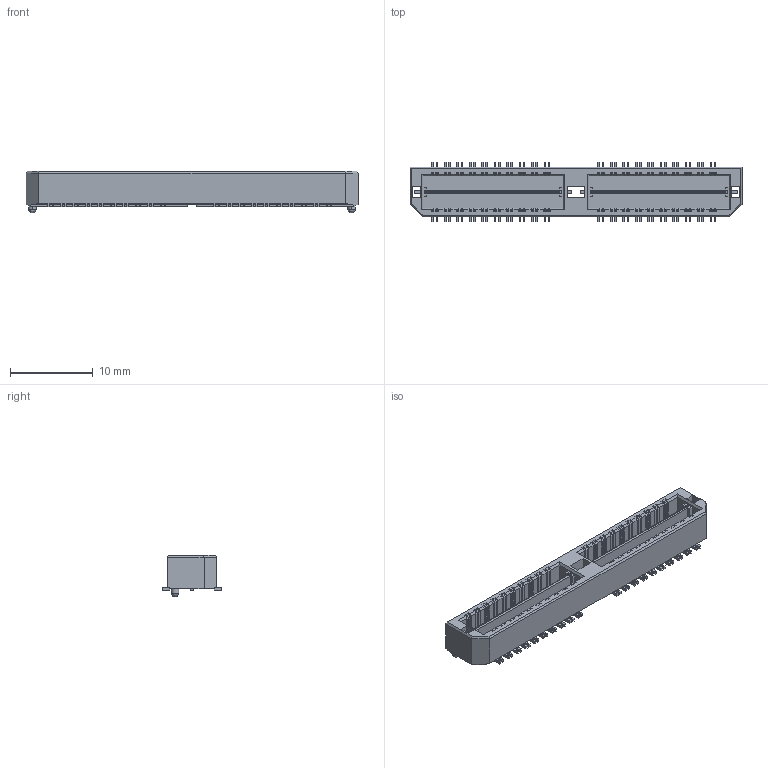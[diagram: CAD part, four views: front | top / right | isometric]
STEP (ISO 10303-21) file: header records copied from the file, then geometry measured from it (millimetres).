
FILE_DESCRIPTION(('Open CASCADE Model'),'2;1');
FILE_NAME('Open CASCADE Shape Model','2026-10-25T11:09:14',('Author'),( 'Open CASCADE'),'Open CASCADE STEP processor 8.0','Open CASCADE 8.0' ,'Unknown');
FILE_SCHEMA(('AUTOMOTIVE_DESIGN { 1 0 10303 214 1 1 1 1 }'));
Length unit declared in the file: millimetre
Products named in the file (6): Open CASCADE STEP translator 8.0 36; Open CASCADE STEP translator 8.0 36.1; Open CASCADE STEP translator 8.0 36.2; Open CASCADE STEP translator 8.0 36.3; Open CASCADE STEP translator 8.0 36.4; Open CASCADE STEP translator 8.0 36.5
Assembly tree (5 placements, depth 2):
  Open CASCADE STEP translator 8.0 36
    Open CASCADE STEP translator 8.0 36.1
    Open CASCADE STEP translator 8.0 36.2
    Open CASCADE STEP translator 8.0 36.3
    Open CASCADE STEP translator 8.0 36.4
    Open CASCADE STEP translator 8.0 36.5
Bounding box: 40.01 x 7.11 x 5.03 mm (x, y, z)
Volume: 664.4 mm3; surface area: 2359.4 mm2
Topology: 5 solids, 5 shells, 2124 faces, 6330 edges, 4214 vertices
Faces by surface type: plane 2034, cylinder 88, bspline 2
Entity records: 155998 total; most frequent: CARTESIAN_POINT 30608, DIRECTION 22738, LINE 18434, VECTOR 18434, ORIENTED_EDGE 12652, PCURVE 12652, DEFINITIONAL_REPRESENTATION 12652, EDGE_CURVE 6326
